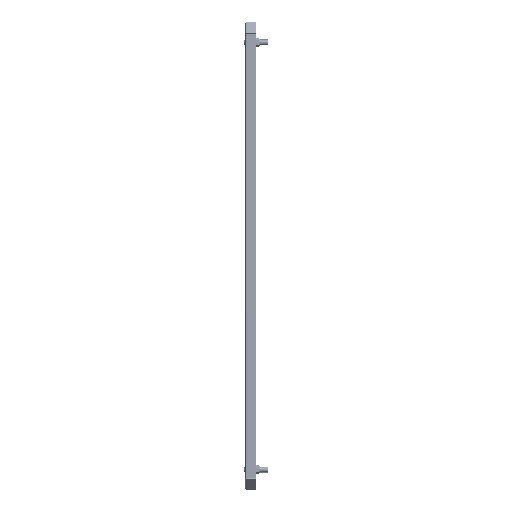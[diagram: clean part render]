
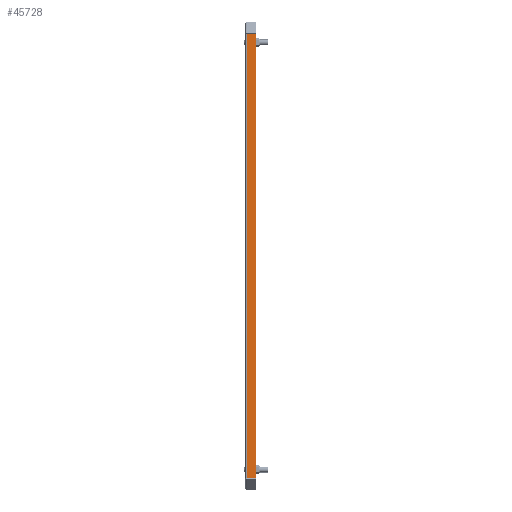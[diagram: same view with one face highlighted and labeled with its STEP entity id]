
A CAD part, left-side view. The second image highlights one B-rep face of the part: STEP entity #45728.
In plain terms, the highlighted planar face has unit normal (-1, 0, 0).
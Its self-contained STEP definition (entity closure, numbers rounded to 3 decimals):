
#10058 = EDGE_LOOP ( 'NONE', ( #66013, #66015, #66011, #66019 ) ) ;
#23749 = VECTOR ( 'NONE', #26920, 1000. ) ;
#23753 = VECTOR ( 'NONE', #26944, 1000. ) ;
#23757 = VECTOR ( 'NONE', #26962, 1000. ) ;
#23759 = VECTOR ( 'NONE', #26968, 1000. ) ;
#26916 = LINE ( 'NONE', #26918, #23749 ) ;
#26918 = CARTESIAN_POINT ( 'NONE',  ( -300., -2.4, 380. ) ) ;
#26920 = DIRECTION ( 'NONE',  ( 0., 0., 1. ) ) ;
#26940 = LINE ( 'NONE', #26942, #23753 ) ;
#26942 = CARTESIAN_POINT ( 'NONE',  ( -300., -18., 380. ) ) ;
#26944 = DIRECTION ( 'NONE',  ( 0., 0., -1. ) ) ;
#26958 = LINE ( 'NONE', #26960, #23757 ) ;
#26960 = CARTESIAN_POINT ( 'NONE',  ( -300., -1.2, 379.395 ) ) ;
#26962 = DIRECTION ( 'NONE',  ( 0., -1., 0. ) ) ;
#26964 = LINE ( 'NONE', #26966, #23759 ) ;
#26966 = CARTESIAN_POINT ( 'NONE',  ( -300., -18., -379.395 ) ) ;
#26968 = DIRECTION ( 'NONE',  ( 0., -1., 0. ) ) ;
#45728 = ADVANCED_FACE ( 'NONE', ( #92574 ), #95271, .F. ) ;
#65025 = VERTEX_POINT ( 'NONE', #143523 ) ;
#65029 = VERTEX_POINT ( 'NONE', #143525 ) ;
#65035 = VERTEX_POINT ( 'NONE', #143528 ) ;
#65039 = VERTEX_POINT ( 'NONE', #143530 ) ;
#66011 = ORIENTED_EDGE ( 'NONE', *, *, #75905, .F. ) ;
#66013 = ORIENTED_EDGE ( 'NONE', *, *, #75901, .F. ) ;
#66015 = ORIENTED_EDGE ( 'NONE', *, *, #75909, .T. ) ;
#66019 = ORIENTED_EDGE ( 'NONE', *, *, #75908, .F. ) ;
#75901 = EDGE_CURVE ( 'NONE', #65025, #65029, #26916, .T. ) ;
#75905 = EDGE_CURVE ( 'NONE', #65039, #65035, #26940, .T. ) ;
#75908 = EDGE_CURVE ( 'NONE', #65029, #65039, #26958, .T. ) ;
#75909 = EDGE_CURVE ( 'NONE', #65025, #65035, #26964, .T. ) ;
#92574 = FACE_OUTER_BOUND ( 'NONE', #10058, .T. ) ;
#92577 = AXIS2_PLACEMENT_3D ( 'NONE', #95272, #95273, #95274 ) ;
#95271 = PLANE ( 'NONE',  #92577 ) ;
#95272 = CARTESIAN_POINT ( 'NONE',  ( -300., -18., 380. ) ) ;
#95273 = DIRECTION ( 'NONE',  ( 1., 0., 0. ) ) ;
#95274 = DIRECTION ( 'NONE',  ( 0., 1., 0. ) ) ;
#143523 = CARTESIAN_POINT ( 'NONE',  ( -300., -2.4, -379.395 ) ) ;
#143525 = CARTESIAN_POINT ( 'NONE',  ( -300., -2.4, 379.395 ) ) ;
#143528 = CARTESIAN_POINT ( 'NONE',  ( -300., -18., -379.395 ) ) ;
#143530 = CARTESIAN_POINT ( 'NONE',  ( -300., -18., 379.395 ) ) ;
